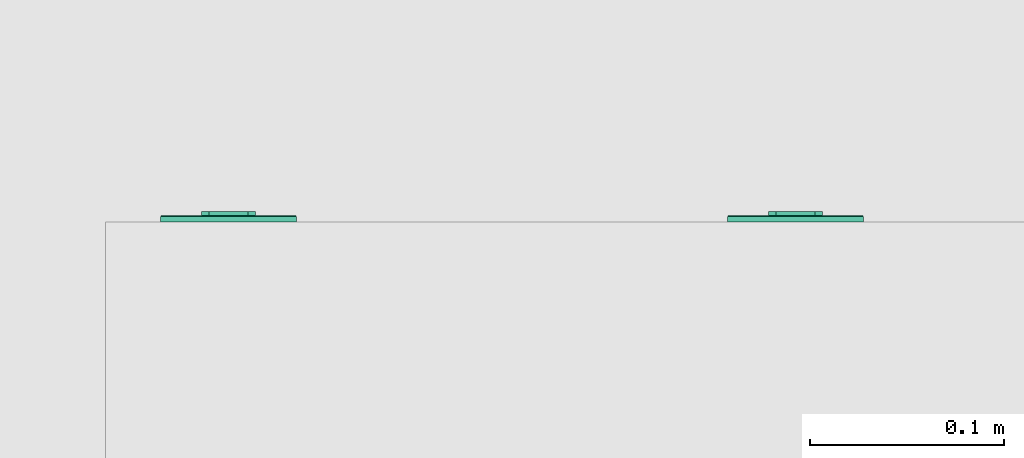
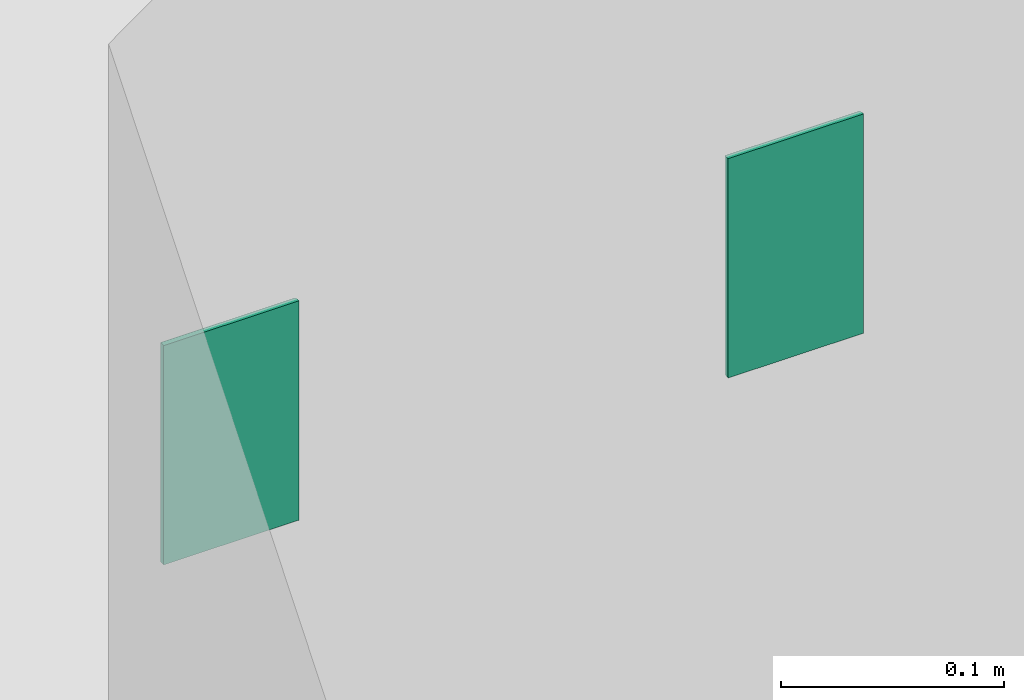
# One storey, part 8 of 48: 2 flow controllers.
"""IFC2X3 building model written with IfcOpenShell, lengths in inches."""

from ifc_helpers import new_model, entity, si_unit, converted_unit, derived_unit, money_unit, direction, frame, origin_with_axes, place, context, subcontext, project, spatial, faceted_brep, source, transform, mapped, type_object, element, save


model = new_model("IFC2X3")

# Units and contexts
model_context = context("Model", 3, precision=0.00039370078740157, world=origin_with_axes(), true_north=direction((0.0, 1.0)))
plan_context = context("Plan", 3, precision=0.00039370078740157, world=origin_with_axes(), true_north=direction((0.0, 1.0)))
body_context = subcontext(model_context, "Body", "Model", "MODEL_VIEW")
ifc_project = project(units=[converted_unit("LENGTHUNIT", "INCH", entity("IfcPositiveLengthMeasure", 0.0254), si_unit("LENGTHUNIT", "METRE"), dimensions=[1, 0, 0, 0, 0, 0, 0]), converted_unit("AREAUNIT", "SQUARE_FOOT", entity("IfcPositiveLengthMeasure", 0.09290304), si_unit("AREAUNIT", "SQUARE_METRE"), dimensions=[2, 0, 0, 0, 0, 0, 0]), si_unit("PLANEANGLEUNIT", "RADIAN"), si_unit("SOLIDANGLEUNIT", "STERADIAN"), money_unit("USD"), converted_unit("TIMEUNIT", "Year", entity("IfcTimeMeasure", 31557600.0), si_unit("TIMEUNIT", "SECOND"), dimensions=[0, 0, 1, 0, 0, 0, 0]), si_unit("MASSUNIT", "GRAM", prefix="KILO"), si_unit("THERMODYNAMICTEMPERATUREUNIT", "DEGREE_CELSIUS"), si_unit("LUMINOUSINTENSITYUNIT", "LUMEN"), si_unit("ENERGYUNIT", "JOULE", prefix="MEGA"), derived_unit("SPECIFICHEATCAPACITYUNIT", [(si_unit("ENERGYUNIT", "JOULE"), 1), (si_unit("MASSUNIT", "GRAM", prefix="KILO"), -1), (si_unit("THERMODYNAMICTEMPERATUREUNIT", "KELVIN"), -1)])], contexts=[model_context, plan_context])

# Site, building, storey
site_placement = place(None, origin_with_axes())
site = spatial("IfcSite", under=ifc_project, at=site_placement, Name="Site", CompositionType="ELEMENT")
building_placement = place(site_placement, origin_with_axes())
building = spatial("IfcBuilding", under=site, at=building_placement, Name="Building", CompositionType="ELEMENT")
storey_placement = place(building_placement, origin_with_axes())
storey = spatial("IfcBuildingStorey", under=building, at=storey_placement, Name="First Floor", CompositionType="ELEMENT", Elevation=0.0)

# Flow controllers
switching_device_type = type_object("IfcSwitchingDeviceType", Name="Outlet 1 US", PredefinedType="NOTDEFINED")
shared_shape = source(origin_with_axes(), body_context, "Body", "Brep", [
    faceted_brep([(0.39370078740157, -0.03444881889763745, -1.18110236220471), (0.5436477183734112, -0.03444881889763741, -0.7086614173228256), (0.5436477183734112, -0.2165354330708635, -0.7086614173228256), (0.39370078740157, -0.2165354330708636, -1.18110236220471), (-0.3937007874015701, -0.03444881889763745, -1.181102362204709), (-0.543647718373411, -0.03444881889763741, -0.7086614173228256), (-0.39370078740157, -0.03444881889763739, -0.2362204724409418), (0.3937007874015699, -0.03444881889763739, -0.2362204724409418), (-0.196850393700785, -0.03444881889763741, -0.7086614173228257), (-0.196850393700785, -0.0344488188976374, -0.4724409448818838), (-0.275590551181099, -0.0344488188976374, -0.4724409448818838), (-0.275590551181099, -0.03444881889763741, -0.7086614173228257), (0.196850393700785, -0.03444881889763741, -0.7086614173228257), (0.275590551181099, -0.03444881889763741, -0.7086614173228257), (0.275590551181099, -0.0344488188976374, -0.4724409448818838), (0.196850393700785, -0.0344488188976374, -0.4724409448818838), (-0.078740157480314, -0.03444881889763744, -1.102362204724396), (0.078740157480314, -0.03444881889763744, -1.102362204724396), (0.078740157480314, -0.03444881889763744, -1.023622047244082), (0.06819097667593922, -0.03444881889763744, -0.9842519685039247), (0.03937007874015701, -0.03444881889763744, -0.9554310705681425), (0.0, -0.03444881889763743, -0.9448818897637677), (-0.03937007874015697, -0.03444881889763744, -0.9554310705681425), (-0.06819097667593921, -0.03444881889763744, -0.9842519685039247), (-0.078740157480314, -0.03444881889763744, -1.023622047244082), (0.3937007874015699, -0.2165354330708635, -0.2362204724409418), (-0.39370078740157, -0.2165354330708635, -0.2362204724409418), (-0.543647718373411, -0.2165354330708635, -0.7086614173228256), (-0.3937007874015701, -0.2165354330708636, -1.181102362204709), (-0.196850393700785, -0.2165354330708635, -0.7086614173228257), (-0.275590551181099, -0.2165354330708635, -0.7086614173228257), (-0.275590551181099, -0.2165354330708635, -0.4724409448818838), (-0.196850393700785, -0.2165354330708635, -0.4724409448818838), (0.196850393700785, -0.2165354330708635, -0.7086614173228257), (0.196850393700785, -0.2165354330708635, -0.4724409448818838), (0.275590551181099, -0.2165354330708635, -0.4724409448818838), (0.275590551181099, -0.2165354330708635, -0.7086614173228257), (-0.078740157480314, -0.2165354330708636, -1.102362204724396), (-0.078740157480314, -0.2165354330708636, -1.023622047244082), (-0.06819097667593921, -0.2165354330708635, -0.9842519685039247), (-0.03937007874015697, -0.2165354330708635, -0.9554310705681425), (0.0, -0.2165354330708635, -0.9448818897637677), (0.03937007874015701, -0.2165354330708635, -0.9554310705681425), (0.06819097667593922, -0.2165354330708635, -0.9842519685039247), (0.078740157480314, -0.2165354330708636, -1.023622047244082), (0.078740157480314, -0.2165354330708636, -1.102362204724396)], [[[0, 1, 2, 3]], [[0, 4, 5, 6, 7, 1], [8, 9, 10, 11], [12, 13, 14, 15], [16, 17, 18, 19, 20, 21, 22, 23, 24]], [[1, 7, 25, 2]], [[3, 2, 25, 26, 27, 28], [29, 30, 31, 32], [33, 34, 35, 36], [37, 38, 39, 40, 41, 42, 43, 44, 45]], [[4, 0, 3, 28]], [[5, 4, 28, 27]], [[6, 5, 27, 26]], [[7, 6, 26, 25]], [[9, 8, 29, 32]], [[10, 9, 32, 31]], [[11, 10, 31, 30]], [[8, 11, 30, 29]], [[13, 12, 33, 36]], [[14, 13, 36, 35]], [[15, 14, 35, 34]], [[12, 15, 34, 33]], [[17, 16, 37, 45]], [[18, 17, 45, 44]], [[19, 18, 44, 43]], [[20, 19, 43, 42]], [[21, 20, 42, 41]], [[22, 21, 41, 40]], [[23, 22, 40, 39]], [[24, 23, 39, 38]], [[16, 24, 38, 37]]]),
    faceted_brep([(0.39370078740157, -0.03444881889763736, 0.2362204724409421), (0.5436477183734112, -0.03444881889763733, 0.7086614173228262), (0.5436477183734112, -0.2165354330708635, 0.7086614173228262), (0.39370078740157, -0.2165354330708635, 0.2362204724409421), (-0.3937007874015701, -0.03444881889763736, 0.2362204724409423), (-0.543647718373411, -0.03444881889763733, 0.7086614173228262), (-0.39370078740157, -0.0344488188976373, 1.18110236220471), (0.3937007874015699, -0.0344488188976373, 1.18110236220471), (-0.196850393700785, -0.03444881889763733, 0.7086614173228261), (-0.196850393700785, -0.03444881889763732, 0.944881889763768), (-0.275590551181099, -0.03444881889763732, 0.944881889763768), (-0.275590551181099, -0.03444881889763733, 0.7086614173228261), (0.196850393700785, -0.03444881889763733, 0.7086614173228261), (0.275590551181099, -0.03444881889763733, 0.7086614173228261), (0.275590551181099, -0.03444881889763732, 0.944881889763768), (0.196850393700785, -0.03444881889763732, 0.944881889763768), (-0.078740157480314, -0.03444881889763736, 0.3149606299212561), (0.078740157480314, -0.03444881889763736, 0.3149606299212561), (0.078740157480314, -0.03444881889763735, 0.3937007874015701), (0.06819097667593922, -0.03444881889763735, 0.4330708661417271), (0.03937007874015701, -0.03444881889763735, 0.4618917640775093), (0.0, -0.03444881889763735, 0.472440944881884), (-0.03937007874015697, -0.03444881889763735, 0.4618917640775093), (-0.06819097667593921, -0.03444881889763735, 0.4330708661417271), (-0.078740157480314, -0.03444881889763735, 0.3937007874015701), (0.3937007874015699, -0.2165354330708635, 1.18110236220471), (-0.39370078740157, -0.2165354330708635, 1.18110236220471), (-0.543647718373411, -0.2165354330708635, 0.7086614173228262), (-0.3937007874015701, -0.2165354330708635, 0.2362204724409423), (-0.196850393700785, -0.2165354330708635, 0.7086614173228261), (-0.275590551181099, -0.2165354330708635, 0.7086614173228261), (-0.275590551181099, -0.2165354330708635, 0.944881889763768), (-0.196850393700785, -0.2165354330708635, 0.944881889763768), (0.196850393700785, -0.2165354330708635, 0.7086614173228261), (0.196850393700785, -0.2165354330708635, 0.944881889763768), (0.275590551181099, -0.2165354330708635, 0.944881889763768), (0.275590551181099, -0.2165354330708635, 0.7086614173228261), (-0.078740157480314, -0.2165354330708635, 0.3149606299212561), (-0.078740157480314, -0.2165354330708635, 0.3937007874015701), (-0.06819097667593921, -0.2165354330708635, 0.4330708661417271), (-0.03937007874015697, -0.2165354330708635, 0.4618917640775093), (0.0, -0.2165354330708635, 0.472440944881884), (0.03937007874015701, -0.2165354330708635, 0.4618917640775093), (0.06819097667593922, -0.2165354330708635, 0.4330708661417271), (0.078740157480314, -0.2165354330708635, 0.3937007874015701), (0.078740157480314, -0.2165354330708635, 0.3149606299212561)], [[[0, 1, 2, 3]], [[0, 4, 5, 6, 7, 1], [8, 9, 10, 11], [12, 13, 14, 15], [16, 17, 18, 19, 20, 21, 22, 23, 24]], [[1, 7, 25, 2]], [[3, 2, 25, 26, 27, 28], [29, 30, 31, 32], [33, 34, 35, 36], [37, 38, 39, 40, 41, 42, 43, 44, 45]], [[4, 0, 3, 28]], [[5, 4, 28, 27]], [[6, 5, 27, 26]], [[7, 6, 26, 25]], [[9, 8, 29, 32]], [[10, 9, 32, 31]], [[11, 10, 31, 30]], [[8, 11, 30, 29]], [[13, 12, 33, 36]], [[14, 13, 36, 35]], [[15, 14, 35, 34]], [[12, 15, 34, 33]], [[17, 16, 37, 45]], [[18, 17, 45, 44]], [[19, 18, 44, 43]], [[20, 19, 43, 42]], [[21, 20, 42, 41]], [[22, 21, 41, 40]], [[23, 22, 40, 39]], [[24, 23, 39, 38]], [[16, 24, 38, 37]]]),
    faceted_brep([(-1.343503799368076, -0.1377952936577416, -2.327755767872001), (1.343503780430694, -0.1377952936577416, -2.327755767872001), (1.343503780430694, -0.1377952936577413, 2.327755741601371), (-1.343503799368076, -0.1377952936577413, 2.327755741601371), (0.39370078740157, -0.1377952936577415, -1.18110236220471), (-0.3937007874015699, -0.1377952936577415, -1.181102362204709), (-0.5436477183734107, -0.1377952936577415, -0.7086614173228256), (-0.39370078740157, -0.1377952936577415, -0.2362204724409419), (0.3937007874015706, -0.1377952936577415, -0.2362204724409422), (0.5436477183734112, -0.1377952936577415, -0.7086614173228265), (-0.39370078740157, -0.1377952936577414, 1.18110236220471), (0.3937007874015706, -0.1377952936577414, 1.18110236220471), (0.5436477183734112, -0.1377952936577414, 0.7086614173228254), (0.39370078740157, -0.1377952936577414, 0.236220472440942), (-0.3937007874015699, -0.1377952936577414, 0.2362204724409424), (-0.5436477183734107, -0.1377952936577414, 0.7086614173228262), (-1.352419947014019, -0.1366214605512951, -2.336671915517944), (1.352419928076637, -0.1366214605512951, -2.336671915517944), (1.352419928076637, -0.1366214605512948, 2.336671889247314), (-1.352419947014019, -0.1366214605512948, 2.336671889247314), (0.39370078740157, -0.03444881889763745, -1.18110236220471), (-0.3937007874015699, -0.03444881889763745, -1.181102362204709), (-0.5436477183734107, -0.03444881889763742, -0.7086614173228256), (-0.39370078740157, -0.03444881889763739, -0.2362204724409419), (0.3937007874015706, -0.03444881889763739, -0.2362204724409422), (0.5436477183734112, -0.03444881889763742, -0.7086614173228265), (-0.39370078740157, -0.0344488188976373, 1.18110236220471), (0.3937007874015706, -0.0344488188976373, 1.18110236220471), (0.5436477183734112, -0.03444881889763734, 0.7086614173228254), (0.39370078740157, -0.03444881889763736, 0.236220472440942), (-0.3937007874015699, -0.03444881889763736, 0.2362204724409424), (-0.5436477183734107, -0.03444881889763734, 0.7086614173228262), (-1.36786294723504, -0.1277054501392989, -2.352114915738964), (1.367862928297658, -0.1277054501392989, -2.352114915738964), (1.367862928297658, -0.1277054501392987, 2.352114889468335), (-1.36786294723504, -0.1277054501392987, 2.352114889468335), (-1.376778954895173, -0.1122624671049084, -2.361030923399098), (1.376778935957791, -0.1122624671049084, -2.361030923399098), (1.376778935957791, -0.1122624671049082, 2.361030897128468), (-1.376778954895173, -0.1122624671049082, 2.361030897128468), (-1.377952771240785, -0.1033464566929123, -2.362204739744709), (1.377952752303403, -0.1033464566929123, -2.362204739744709), (1.377952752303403, -0.103346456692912, 2.36220471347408), (-1.377952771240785, -0.103346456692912, 2.36220471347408), (-1.377952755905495, 0.0, -2.36220472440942), (1.377952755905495, 0.0, -2.36220472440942), (1.377952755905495, 0.0, 2.36220472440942), (-1.377952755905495, 0.0, 2.36220472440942)], [[[0, 1, 2, 3], [4, 5, 6, 7, 8, 9], [10, 11, 12, 13, 14, 15]], [[1, 0, 16, 17]], [[2, 1, 17, 18]], [[3, 2, 18, 19]], [[0, 3, 19, 16]], [[4, 20, 21, 5]], [[5, 21, 22, 6]], [[6, 22, 23, 7]], [[7, 23, 24, 8]], [[8, 24, 25, 9]], [[9, 25, 20, 4]], [[11, 10, 26, 27]], [[12, 11, 27, 28]], [[13, 12, 28, 29]], [[14, 13, 29, 30]], [[15, 14, 30, 31]], [[10, 15, 31, 26]], [[17, 16, 32, 33]], [[18, 17, 33, 34]], [[19, 18, 34, 35]], [[16, 19, 35, 32]], [[22, 21, 20, 25, 24, 23]], [[28, 27, 26, 31, 30, 29]], [[33, 32, 36, 37]], [[34, 33, 37, 38]], [[35, 34, 38, 39]], [[32, 35, 39, 36]], [[37, 36, 40, 41]], [[38, 37, 41, 42]], [[39, 38, 42, 43]], [[36, 39, 43, 40]], [[41, 40, 44, 45]], [[42, 41, 45, 46]], [[43, 42, 46, 47]], [[40, 43, 47, 44]], [[46, 45, 44, 47]]]),
])
for number, where, z_axis, x_axis, name in (
    (1, (228.4999999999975, 210.5000000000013, 13.99999999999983), (0.0, 0.0, 1.0), (-1.0, 0.0, 0.0), "FU - 029"),
    (2, (216.9999999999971, 210.5000000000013, 13.99999999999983), (0.0, 0.0, 1.0), (-1.0, 0.0, 0.0), "FU - 029"),
):
    element("IfcFlowController", number, at=place(storey_placement, frame(where, z_axis=z_axis, x_axis=x_axis)), inside=storey, type_object=switching_device_type, Name=name, context=body_context, shape_type="MappedRepresentation", body=[
        mapped(shared_shape, transform((0.0, 0.0, 0.0))),
    ])

save(model, "model.ifc")
